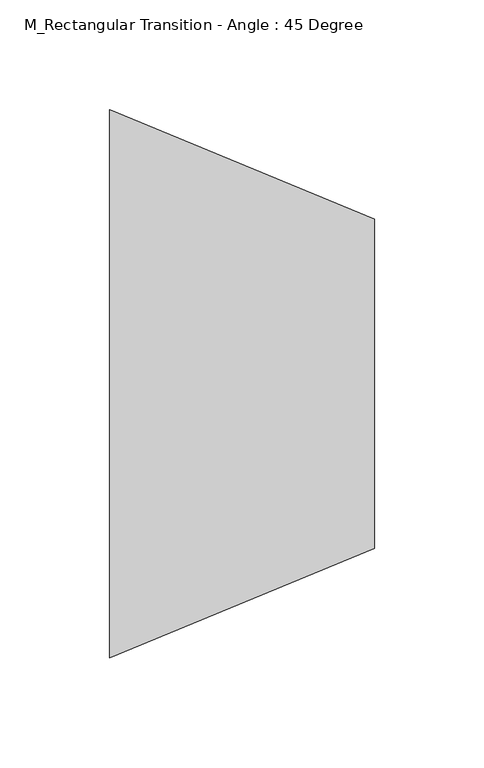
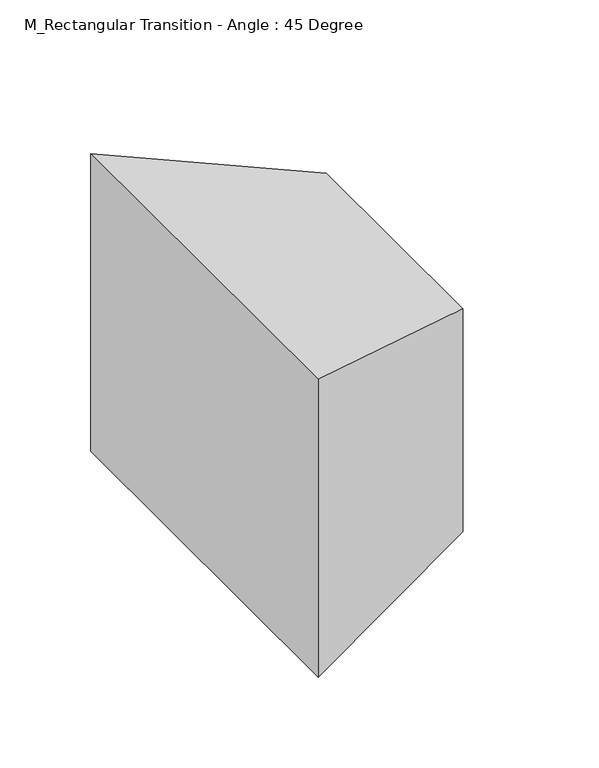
"""IFC4 building model written with IfcOpenShell, lengths in millimetres: duct fitting geometry, M_Rectangular Transition - Angle : 45 Degree."""

from ifc_helpers import new_model, si_unit, origin, place, context, project, spatial, faceted_brep, source, transform, mapped, element, save


def m_rectangular_transition_angle_45_degree_d90ebce3(model_context):
    return source(origin(), model_context, "Body", "Brep", [
        faceted_brep([(120.7106781, -75.0, 75.05), (120.7106781, -75.0, -74.95), (120.7106781, 75.0, -74.95), (120.7106781, 75.0, 75.05), (0.0, -125.0, 100.0), (0.0, 125.0, 100.0), (0.0, 125.0, -100.0), (0.0, -125.0, -100.0)], [[[0, 1, 2, 3]], [[4, 5, 6, 7]], [[4, 7, 1, 0]], [[7, 6, 2, 1]], [[6, 5, 3, 2]], [[5, 4, 0, 3]]]),
        faceted_brep([(120.7106781, -75.0, 75.05), (120.7106781, -75.0, -74.95), (120.7106781, 75.0, -74.95), (120.7106781, 75.0, 75.05), (0.0, -125.0, 100.0), (0.0, 125.0, 100.0), (0.0, 125.0, -100.0), (0.0, -125.0, -100.0)], [[[0, 1, 2, 3]], [[4, 5, 6, 7]], [[4, 7, 1, 0]], [[7, 6, 2, 1]], [[6, 5, 3, 2]], [[5, 4, 0, 3]]]),
        faceted_brep([(120.7106781, -75.0, 75.05), (120.7106781, -75.0, -74.95), (120.7106781, 75.0, -74.95), (120.7106781, 75.0, 75.05), (0.0, -125.0, 100.0), (0.0, 125.0, 100.0), (0.0, 125.0, -100.0), (0.0, -125.0, -100.0)], [[[0, 1, 2, 3]], [[4, 5, 6, 7]], [[4, 7, 1, 0]], [[7, 6, 2, 1]], [[6, 5, 3, 2]], [[5, 4, 0, 3]]]),
    ])


if __name__ == "__main__":
    model = new_model("IFC4")
    model_context = context("Model", 3, world=origin())
    ifc_project = project(units=[si_unit("LENGTHUNIT", "METRE", prefix="MILLI")], contexts=[model_context])
    site = spatial("IfcSite", under=ifc_project)
    building = spatial("IfcBuilding", under=site)
    placement = place(None, origin())
    m_rectangular_transition_angle_45_degree_shape = m_rectangular_transition_angle_45_degree_d90ebce3(model_context)
    element("IfcDuctFitting", 1, ObjectType="M_Rectangular Transition - Angle : 45 Degree", at=placement, inside=building, context=model_context, shape_type="MappedRepresentation", body=[
        mapped(m_rectangular_transition_angle_45_degree_shape, transform((0.0, 0.0, 0.0), x_axis=(1.0, 0.0, 0.0), y_axis=(0.0, 1.0, 0.0), z_axis=(0.0, 0.0, 1.0))),
    ])
    save(model, "model.ifc")
